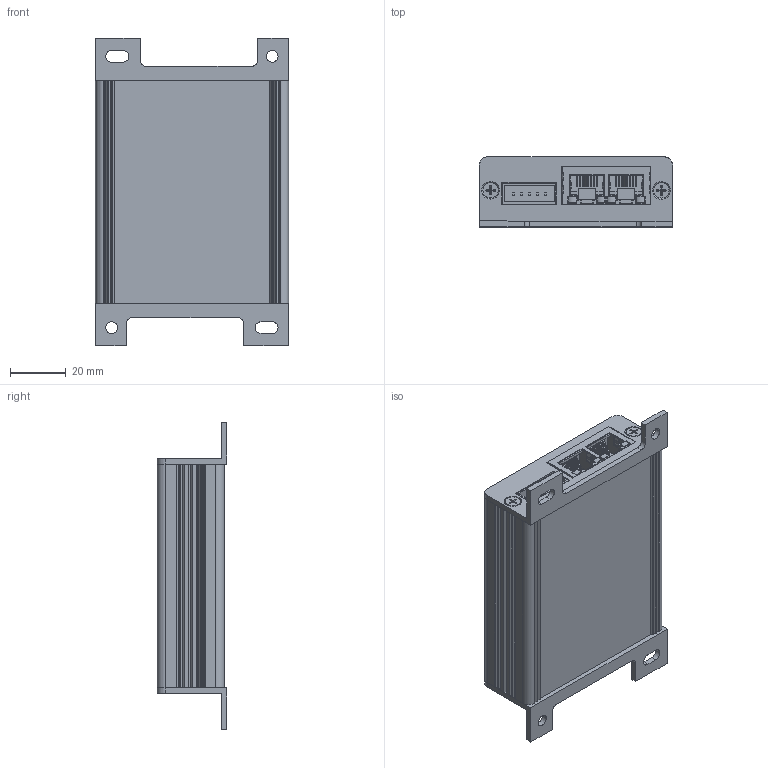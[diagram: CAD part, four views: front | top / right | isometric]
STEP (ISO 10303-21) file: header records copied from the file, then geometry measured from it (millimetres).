
FILE_DESCRIPTION((''),'2;1');
FILE_NAME('0000057184_ASM','2013-07-03T',('11000509'),(''),'PRO/ENGINEER BY PARAMETRIC TECHNOLOGY CORPORATION, 2013050','PRO/ENGINEER BY PARAMETRIC TECHNOLOGY CORPORATION, 2013050','');
FILE_SCHEMA(('AUTOMOTIVE_DESIGN { 1 0 10303 214 1 1 1 1 }'));
Length unit declared in the file: millimetre
Products named in the file (9): 0000057185; 0000057194; 0000057187; 0000057155; 0000057168; 0000057258; 0000057270; 0000057271; 0000057184_ASM
Assembly tree (11 placements, depth 2):
  0000057184_ASM
    0000057185
    0000057194
    0000057187  x4
    0000057155
    0000057168
    0000057258
    0000057270
    0000057271
Bounding box: 69.1 x 25.04 x 110 mm (x, y, z)
Volume: 42380.7 mm3; surface area: 52444.9 mm2
Topology: 11 solids, 11 shells, 978 faces, 2739 edges, 1802 vertices
Faces by surface type: plane 638, cylinder 236, cone 72, torus 32
Entity records: 37531 total; most frequent: CARTESIAN_POINT 5124, ORIENTED_EDGE 4850, DIRECTION 4697, EDGE_CURVE 2425, VECTOR 1845, LINE 1845, VERTEX_POINT 1607, PRESENTATION_STYLE_ASSIGNMENT 1525
